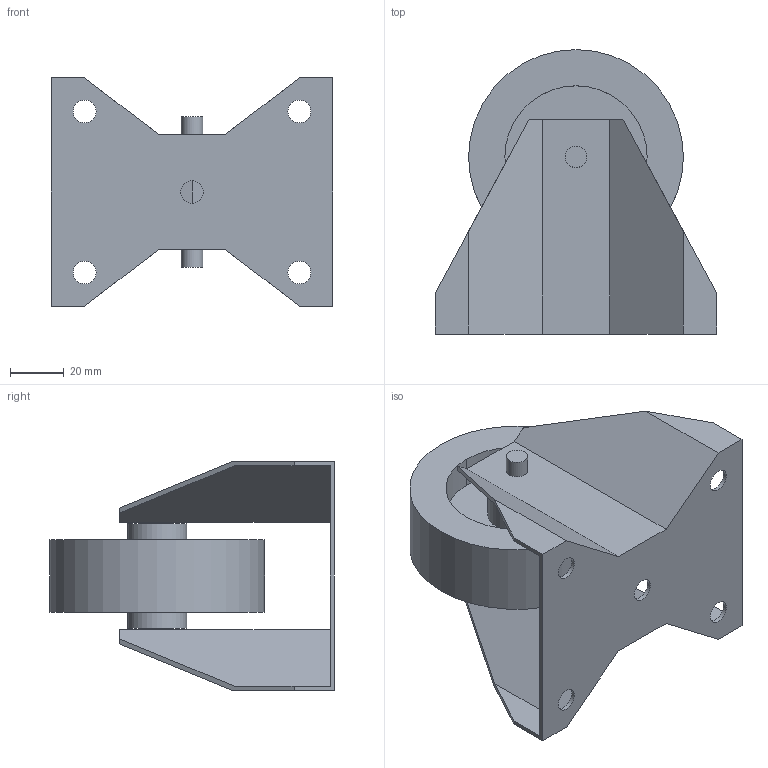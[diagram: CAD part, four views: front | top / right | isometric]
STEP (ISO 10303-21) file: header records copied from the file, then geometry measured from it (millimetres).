
FILE_DESCRIPTION((''),'2;1');
FILE_NAME('RUF080N_ASM','2002-12-27T',('Lipro doo'),('Lipro d.o.o.'),'PRO/ENGINEER BY PARAMETRIC TECHNOLOGY CORPORATION, 2001150','PRO/ENGINEER BY PARAMETRIC TECHNOLOGY CORPORATION, 2001150','');
FILE_SCHEMA(('CONFIG_CONTROL_DESIGN'));
Length unit declared in the file: millimetre
Products named in the file (3): RUF080N_2; RUF080N_1; RUF080N_ASM
Assembly tree (2 placements, depth 2):
  RUF080N_ASM
    RUF080N_2
    RUF080N_1
Bounding box: 105 x 106 x 85 mm (x, y, z)
Volume: 127313.6 mm3; surface area: 64999.6 mm2
Topology: 2 solids, 2 shells, 66 faces, 168 edges, 112 vertices
Faces by surface type: plane 38, cylinder 28
Entity records: 2129 total; most frequent: DIRECTION 366, CARTESIAN_POINT 351, ORIENTED_EDGE 336, EDGE_CURVE 168, AXIS2_PLACEMENT_3D 127, VECTOR 112, LINE 112, VERTEX_POINT 112
